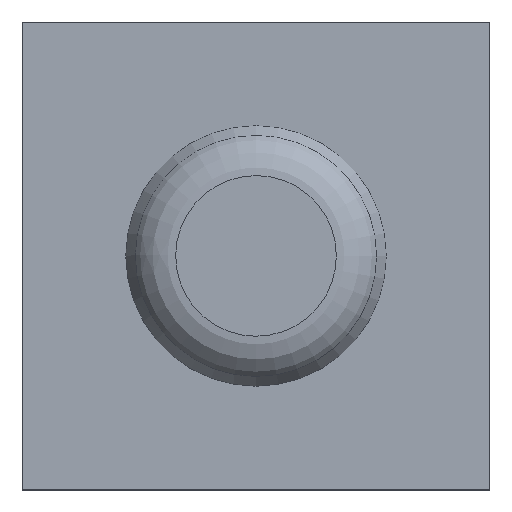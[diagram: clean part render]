
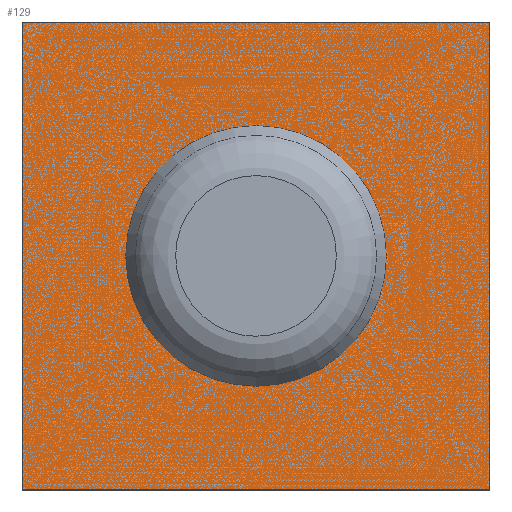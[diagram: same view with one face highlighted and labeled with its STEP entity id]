
A CAD part, top view. The second image highlights one B-rep face of the part: STEP entity #129.
In plain terms, the highlighted planar face has unit normal (0, 0, 1).
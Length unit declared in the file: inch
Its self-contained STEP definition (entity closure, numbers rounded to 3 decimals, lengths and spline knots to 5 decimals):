
#24=CARTESIAN_POINT('',(-0.01497,20.23497,16.54493));
#25=VERTEX_POINT('',#24);
#34=CARTESIAN_POINT('',(-0.01497,18.73497,16.54493));
#35=VERTEX_POINT('',#34);
#36=CARTESIAN_POINT('',(-0.01497,26.22411,16.54493));
#37=DIRECTION('',(0.,1.,0.));
#38=VECTOR('',#37,1.);
#39=LINE('',#36,#38);
#40=EDGE_CURVE('',#35,#25,#39,.T.);
#65=CARTESIAN_POINT('',(-1.51497,18.73497,16.54493));
#66=VERTEX_POINT('',#65);
#67=CARTESIAN_POINT('',(187.27396,18.73497,16.54493));
#68=DIRECTION('',(1.,0.,0.));
#69=VECTOR('',#68,1.);
#70=LINE('',#67,#69);
#71=EDGE_CURVE('',#66,#35,#70,.T.);
#95=ORIENTED_EDGE('',*,*,#40,.T.);
#96=CARTESIAN_POINT('',(-1.51497,20.23497,16.54493));
#97=VERTEX_POINT('',#96);
#98=CARTESIAN_POINT('',(223.03083,20.23497,16.54493));
#99=DIRECTION('',(-1.,0.,0.));
#100=VECTOR('',#99,1.);
#101=LINE('',#98,#100);
#102=EDGE_CURVE('',#25,#97,#101,.T.);
#103=ORIENTED_EDGE('',*,*,#102,.T.);
#104=CARTESIAN_POINT('',(-1.51497,98.40212,16.54493));
#105=DIRECTION('',(0.,-1.,0.));
#106=VECTOR('',#105,1.);
#107=LINE('',#104,#106);
#108=EDGE_CURVE('',#97,#66,#107,.T.);
#109=ORIENTED_EDGE('',*,*,#108,.T.);
#110=ORIENTED_EDGE('',*,*,#71,.T.);
#111=EDGE_LOOP('',(#95,#103,#109,#110));
#112=FACE_OUTER_BOUND('',#111,.T.);
#113=CARTESIAN_POINT('',(-0.3475,19.48497,16.54493));
#114=VERTEX_POINT('',#113);
#115=CARTESIAN_POINT('',(-0.76497,19.48497,16.54493));
#116=DIRECTION('',(0.,0.,1.));
#117=DIRECTION('',(-1.,0.,0.));
#118=AXIS2_PLACEMENT_3D('',#115,#116,#117);
#119=CIRCLE('',#118,0.41746);
#120=EDGE_CURVE('',#114,#114,#119,.T.);
#121=ORIENTED_EDGE('',*,*,#120,.F.);
#122=EDGE_LOOP('',(#121));
#123=FACE_BOUND('',#122,.T.);
#124=CARTESIAN_POINT('',(-8.16497,8.19997,16.54493));
#125=DIRECTION('',(0.,0.,1.));
#126=DIRECTION('',(1.,0.,0.));
#127=AXIS2_PLACEMENT_3D('',#124,#125,#126);
#128=PLANE('',#127);
#129=ADVANCED_FACE('',(#112,#123),#128,.T.);
